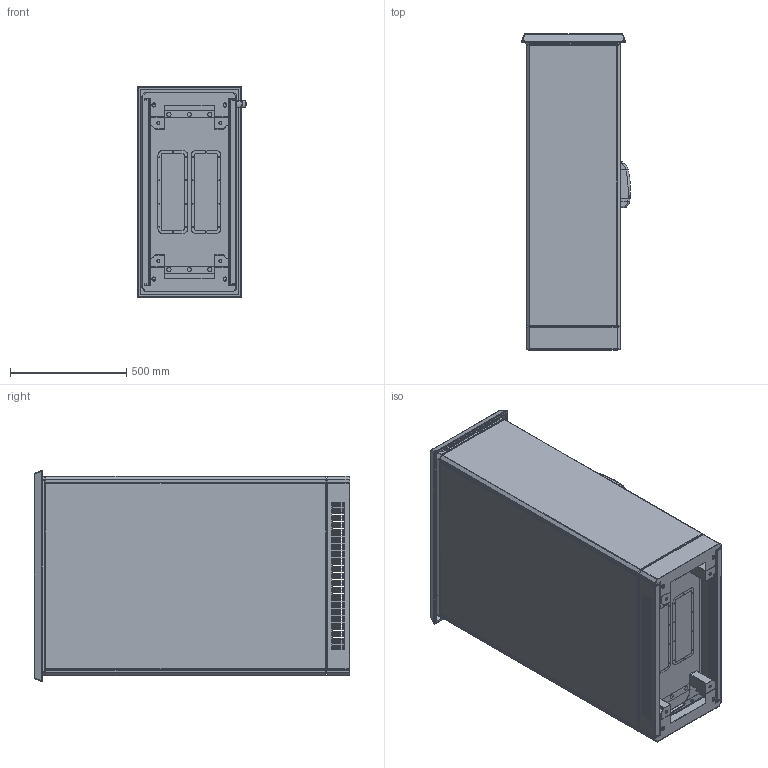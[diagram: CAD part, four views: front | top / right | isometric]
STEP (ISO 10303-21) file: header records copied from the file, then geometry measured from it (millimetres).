
FILE_DESCRIPTION (( 'STEP AP203' ), '1' );
FILE_NAME ('EVIS081204DA.STEP', '2021-03-15T13:28:57', ( '' ), ( '' ), 'SwSTEP 2.0', 'SolidWorks 2019', '' );
FILE_SCHEMA (( 'CONFIG_CONTROL_DESIGN' ));
Length unit declared in the file: millimetre
Products named in the file (10): AR_Tetto E-VIS_DA_0800x0400; AR_E-VIS_Copertura Retro_DA_0800x1200; AR_E-VIS_Copertura Fianco_DA_0400x1200; EVIS081204DA; AR_ENUX_nuova_maniglia_mesan; AR_E-VIS_Assieme porta singola_DA_0800x1200_DA; AR_E-VIS_struttura_DADM_0800x1200x0400; AR_E-VIS_Porta singola cieca_DA_0800x1200_DA; AR_E-VIS_Retro_DA_0800x1200; AR_E-VIS_Zoccolo DA_0800x0400_areata
Assembly tree (10 placements, depth 3):
  EVIS081204DA
    AR_E-VIS_struttura_DADM_0800x1200x0400
    AR_Tetto E-VIS_DA_0800x0400
    AR_E-VIS_Zoccolo DA_0800x0400_areata
    AR_E-VIS_Copertura Fianco_DA_0400x1200  x2
    AR_E-VIS_Retro_DA_0800x1200
    AR_E-VIS_Copertura Retro_DA_0800x1200
    AR_E-VIS_Assieme porta singola_DA_0800x1200_DA
      AR_E-VIS_Porta singola cieca_DA_0800x1200_DA
      AR_ENUX_nuova_maniglia_mesan
Bounding box: 469.71 x 1359.76 x 907.9 mm (x, y, z)
Volume: 17407994.3 mm3; surface area: 17081889.3 mm2
Topology: 13 solids, 14 shells, 4243 faces, 12156 edges, 7879 vertices
Faces by surface type: cylinder 2073, plane 1973, sphere 97, cone 54, bspline 25, torus 21
Entity records: 142717 total; most frequent: CARTESIAN_POINT 27784, DIRECTION 23984, ORIENTED_EDGE 23614, EDGE_CURVE 11807, AXIS2_PLACEMENT_3D 8212, VERTEX_POINT 7723, VECTOR 7560, LINE 7560
